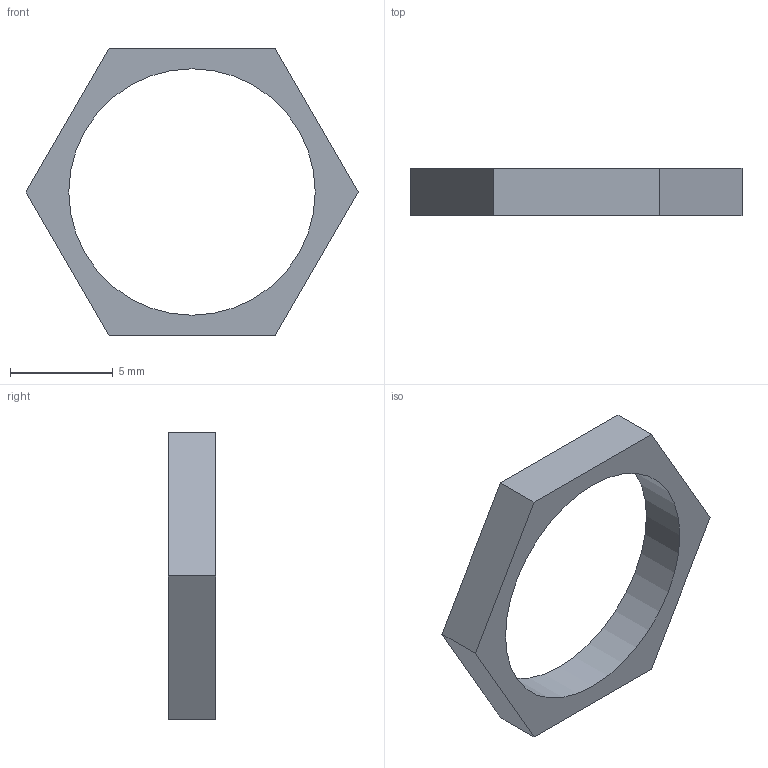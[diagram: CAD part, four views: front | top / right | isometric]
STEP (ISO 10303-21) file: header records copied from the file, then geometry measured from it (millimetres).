
FILE_DESCRIPTION(/* description */ ('STEP AP242 Edition 2','CAx-IF Rec.Pracs.---Representation and Presentation of Product Manufacturing Information (PMI)---4.0---2014-10-13','CAx-IF Rec.Pracs.---3D Tessellated Geometry---0.4---2014-09-14','2;1','CAx-IF Rec.Pracs.---User Defined Attributes---1.5---2016-08-15'),/* implementation_level */ '2;1');
FILE_NAME(/* name */ 'bb_v3 - button-nut',/* time_stamp */ '2026-05-01T07:59:49Z',/* author */ (''),/* organization */ (''),/* preprocessor_version */ 'ST-DEVELOPER v20',/* originating_system */ 'ONSHAPE BY PTC INC, 1.214',/* authorisation */ ' ');
FILE_SCHEMA (('AP242_MANAGED_MODEL_BASED_3D_ENGINEERING_MIM_LF { 1 0 10303 442 3 1 4 }'));
Length unit declared in the file: metre
Products named in the file (1): button-nut
Bounding box: 16.17 x 2.3 x 14 mm (x, y, z)
Volume: 130.3 mm3; surface area: 311.5 mm2
Topology: 1 solids, 1 shells, 9 faces, 21 edges, 14 vertices
Faces by surface type: plane 8, cylinder 1
Full cylindrical faces by diameter (mm): 12 x1
Entity records: 278 total; most frequent: CARTESIAN_POINT 44, DIRECTION 42, ORIENTED_EDGE 40, EDGE_CURVE 20, LINE 18, VECTOR 18, VERTEX_POINT 14, EDGE_LOOP 12
